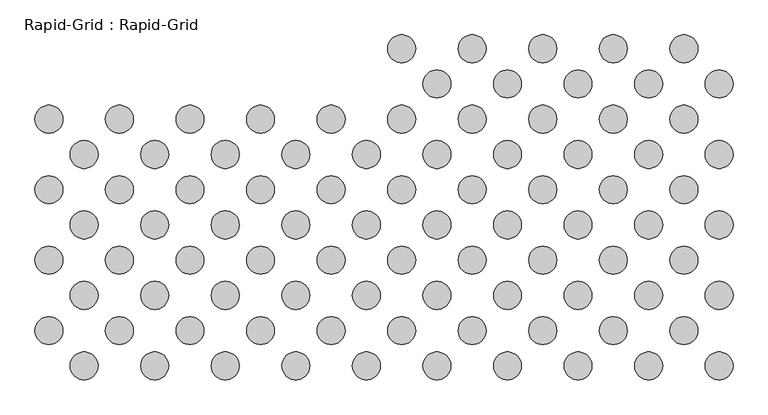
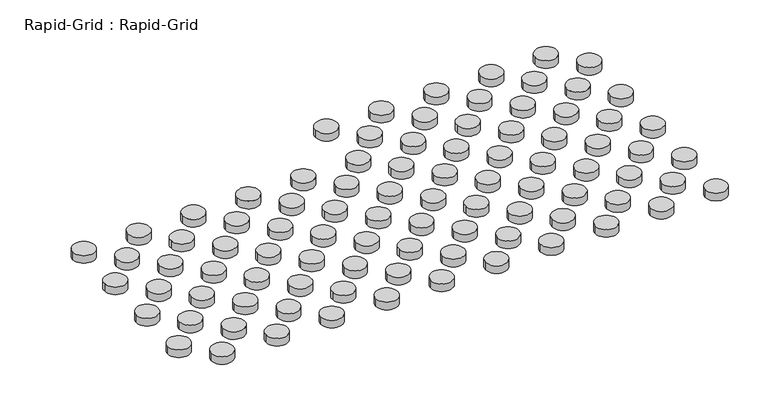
"""IFC4 building model written with IfcOpenShell, lengths in millimetres: proxy geometry, Rapid-Grid : Rapid-Grid."""

from ifc_helpers import new_model, si_unit, point, frame_2d, origin, origin_with_axes, place, context, project, spatial, circle_curve, trimmed, segment, composite_curve, outline, extrude, source, transform, mapped, element, save


def rapid_grid_rapid_grid_6c8458ec(model_context):
    return source(origin(), model_context, "Body", "SweptSolid", [
        extrude(outline(composite_curve([segment(trimmed(circle_curve(frame_2d((1485.9, -2552.7)), 30.1625), [point((1455.7375, -2552.7))], [point((1516.0625, -2552.7))], False, "CARTESIAN"), True, "CONTINUOUS"), segment(trimmed(circle_curve(frame_2d((1485.9, -2552.7)), 30.1625), [point((1516.0625, -2552.7))], [point((1455.7375, -2552.7))], False, "CARTESIAN"), True, "CONTINUOUS")], self_intersect=False)), origin_with_axes(), (0.0, 0.0, 1.0), 22.225),
        extrude(outline(composite_curve([segment(trimmed(circle_curve(frame_2d((1409.7, -2476.5)), 30.1625), [point((1379.5375, -2476.5))], [point((1439.8625, -2476.5))], False, "CARTESIAN"), True, "CONTINUOUS"), segment(trimmed(circle_curve(frame_2d((1409.7, -2476.5)), 30.1625), [point((1439.8625, -2476.5))], [point((1379.5375, -2476.5))], False, "CARTESIAN"), True, "CONTINUOUS")], self_intersect=False)), origin_with_axes(), (0.0, 0.0, 1.0), 22.225),
        extrude(outline(composite_curve([segment(trimmed(circle_curve(frame_2d((1333.5, -2552.7)), 30.1625), [point((1303.3375, -2552.7))], [point((1363.6625, -2552.7))], False, "CARTESIAN"), True, "CONTINUOUS"), segment(trimmed(circle_curve(frame_2d((1333.5, -2552.7)), 30.1625), [point((1363.6625, -2552.7))], [point((1303.3375, -2552.7))], False, "CARTESIAN"), True, "CONTINUOUS")], self_intersect=False)), origin_with_axes(), (0.0, 0.0, 1.0), 22.225),
        extrude(outline(composite_curve([segment(trimmed(circle_curve(frame_2d((1257.3, -2476.5)), 30.1625), [point((1227.1375, -2476.5))], [point((1287.4625, -2476.5))], False, "CARTESIAN"), True, "CONTINUOUS"), segment(trimmed(circle_curve(frame_2d((1257.3, -2476.5)), 30.1625), [point((1287.4625, -2476.5))], [point((1227.1375, -2476.5))], False, "CARTESIAN"), True, "CONTINUOUS")], self_intersect=False)), origin_with_axes(), (0.0, 0.0, 1.0), 22.225),
        extrude(outline(composite_curve([segment(trimmed(circle_curve(frame_2d((1181.1, -2552.7)), 30.1625), [point((1150.9375, -2552.7))], [point((1211.2625, -2552.7))], False, "CARTESIAN"), True, "CONTINUOUS"), segment(trimmed(circle_curve(frame_2d((1181.1, -2552.7)), 30.1625), [point((1211.2625, -2552.7))], [point((1150.9375, -2552.7))], False, "CARTESIAN"), True, "CONTINUOUS")], self_intersect=False)), origin_with_axes(), (0.0, 0.0, 1.0), 22.225),
        extrude(outline(composite_curve([segment(trimmed(circle_curve(frame_2d((1104.9, -2476.5)), 30.1625), [point((1074.7375, -2476.5))], [point((1135.0625, -2476.5))], False, "CARTESIAN"), True, "CONTINUOUS"), segment(trimmed(circle_curve(frame_2d((1104.9, -2476.5)), 30.1625), [point((1135.0625, -2476.5))], [point((1074.7375, -2476.5))], False, "CARTESIAN"), True, "CONTINUOUS")], self_intersect=False)), origin_with_axes(), (0.0, 0.0, 1.0), 22.225),
        extrude(outline(composite_curve([segment(trimmed(circle_curve(frame_2d((1028.7, -2552.7)), 30.1625), [point((998.5375, -2552.7))], [point((1058.8625, -2552.7))], False, "CARTESIAN"), True, "CONTINUOUS"), segment(trimmed(circle_curve(frame_2d((1028.7, -2552.7)), 30.1625), [point((1058.8625, -2552.7))], [point((998.5375, -2552.7))], False, "CARTESIAN"), True, "CONTINUOUS")], self_intersect=False)), origin_with_axes(), (0.0, 0.0, 1.0), 22.225),
        extrude(outline(composite_curve([segment(trimmed(circle_curve(frame_2d((952.5, -2476.5)), 30.1625), [point((922.3375, -2476.5))], [point((982.6625, -2476.5))], False, "CARTESIAN"), True, "CONTINUOUS"), segment(trimmed(circle_curve(frame_2d((952.5, -2476.5)), 30.1625), [point((982.6625, -2476.5))], [point((922.3375, -2476.5))], False, "CARTESIAN"), True, "CONTINUOUS")], self_intersect=False)), origin_with_axes(), (0.0, 0.0, 1.0), 22.225),
        extrude(outline(composite_curve([segment(trimmed(circle_curve(frame_2d((876.3, -2552.7)), 30.1625), [point((846.1375, -2552.7))], [point((906.4625, -2552.7))], False, "CARTESIAN"), True, "CONTINUOUS"), segment(trimmed(circle_curve(frame_2d((876.3, -2552.7)), 30.1625), [point((906.4625, -2552.7))], [point((846.1375, -2552.7))], False, "CARTESIAN"), True, "CONTINUOUS")], self_intersect=False)), origin_with_axes(), (0.0, 0.0, 1.0), 22.225),
        extrude(outline(composite_curve([segment(trimmed(circle_curve(frame_2d((800.1, -2476.5)), 30.1625), [point((769.9375, -2476.5))], [point((830.2625, -2476.5))], False, "CARTESIAN"), True, "CONTINUOUS"), segment(trimmed(circle_curve(frame_2d((800.1, -2476.5)), 30.1625), [point((830.2625, -2476.5))], [point((769.9375, -2476.5))], False, "CARTESIAN"), True, "CONTINUOUS")], self_intersect=False)), origin_with_axes(), (0.0, 0.0, 1.0), 22.225),
        extrude(outline(composite_curve([segment(trimmed(circle_curve(frame_2d((723.9, -2552.7)), 30.1625), [point((693.7375, -2552.7))], [point((754.0625, -2552.7))], False, "CARTESIAN"), True, "CONTINUOUS"), segment(trimmed(circle_curve(frame_2d((723.9, -2552.7)), 30.1625), [point((754.0625, -2552.7))], [point((693.7375, -2552.7))], False, "CARTESIAN"), True, "CONTINUOUS")], self_intersect=False)), origin_with_axes(), (0.0, 0.0, 1.0), 22.225),
        extrude(outline(composite_curve([segment(trimmed(circle_curve(frame_2d((647.7, -2476.5)), 30.1625), [point((617.5375, -2476.5))], [point((677.8625, -2476.5))], False, "CARTESIAN"), True, "CONTINUOUS"), segment(trimmed(circle_curve(frame_2d((647.7, -2476.5)), 30.1625), [point((677.8625, -2476.5))], [point((617.5375, -2476.5))], False, "CARTESIAN"), True, "CONTINUOUS")], self_intersect=False)), origin_with_axes(), (0.0, 0.0, 1.0), 22.225),
        extrude(outline(composite_curve([segment(trimmed(circle_curve(frame_2d((571.5, -2552.7)), 30.1625), [point((541.3375, -2552.7))], [point((601.6625, -2552.7))], False, "CARTESIAN"), True, "CONTINUOUS"), segment(trimmed(circle_curve(frame_2d((571.5, -2552.7)), 30.1625), [point((601.6625, -2552.7))], [point((541.3375, -2552.7))], False, "CARTESIAN"), True, "CONTINUOUS")], self_intersect=False)), origin_with_axes(), (0.0, 0.0, 1.0), 22.225),
        extrude(outline(composite_curve([segment(trimmed(circle_curve(frame_2d((495.3, -2476.5)), 30.1625), [point((465.1375, -2476.5))], [point((525.4625, -2476.5))], False, "CARTESIAN"), True, "CONTINUOUS"), segment(trimmed(circle_curve(frame_2d((495.3, -2476.5)), 30.1625), [point((525.4625, -2476.5))], [point((465.1375, -2476.5))], False, "CARTESIAN"), True, "CONTINUOUS")], self_intersect=False)), origin_with_axes(), (0.0, 0.0, 1.0), 22.225),
        extrude(outline(composite_curve([segment(trimmed(circle_curve(frame_2d((419.1, -2552.7)), 30.1625), [point((388.9375, -2552.7))], [point((449.2625, -2552.7))], False, "CARTESIAN"), True, "CONTINUOUS"), segment(trimmed(circle_curve(frame_2d((419.1, -2552.7)), 30.1625), [point((449.2625, -2552.7))], [point((388.9375, -2552.7))], False, "CARTESIAN"), True, "CONTINUOUS")], self_intersect=False)), origin_with_axes(), (0.0, 0.0, 1.0), 22.225),
        extrude(outline(composite_curve([segment(trimmed(circle_curve(frame_2d((342.9, -2476.5)), 30.1625), [point((312.7375, -2476.5))], [point((373.0625, -2476.5))], False, "CARTESIAN"), True, "CONTINUOUS"), segment(trimmed(circle_curve(frame_2d((342.9, -2476.5)), 30.1625), [point((373.0625, -2476.5))], [point((312.7375, -2476.5))], False, "CARTESIAN"), True, "CONTINUOUS")], self_intersect=False)), origin_with_axes(), (0.0, 0.0, 1.0), 22.225),
        extrude(outline(composite_curve([segment(trimmed(circle_curve(frame_2d((266.7, -2552.7)), 30.1625), [point((236.5375, -2552.7))], [point((296.8625, -2552.7))], False, "CARTESIAN"), True, "CONTINUOUS"), segment(trimmed(circle_curve(frame_2d((266.7, -2552.7)), 30.1625), [point((296.8625, -2552.7))], [point((236.5375, -2552.7))], False, "CARTESIAN"), True, "CONTINUOUS")], self_intersect=False)), origin_with_axes(), (0.0, 0.0, 1.0), 22.225),
        extrude(outline(composite_curve([segment(trimmed(circle_curve(frame_2d((190.5, -2476.5)), 30.1625), [point((160.3375, -2476.5))], [point((220.6625, -2476.5))], False, "CARTESIAN"), True, "CONTINUOUS"), segment(trimmed(circle_curve(frame_2d((190.5, -2476.5)), 30.1625), [point((220.6625, -2476.5))], [point((160.3375, -2476.5))], False, "CARTESIAN"), True, "CONTINUOUS")], self_intersect=False)), origin_with_axes(), (0.0, 0.0, 1.0), 22.225),
        extrude(outline(composite_curve([segment(trimmed(circle_curve(frame_2d((114.3, -2552.7)), 30.1625), [point((84.1375, -2552.7))], [point((144.4625, -2552.7))], False, "CARTESIAN"), True, "CONTINUOUS"), segment(trimmed(circle_curve(frame_2d((114.3, -2552.7)), 30.1625), [point((144.4625, -2552.7))], [point((84.1375, -2552.7))], False, "CARTESIAN"), True, "CONTINUOUS")], self_intersect=False)), origin_with_axes(), (0.0, 0.0, 1.0), 22.225),
        extrude(outline(composite_curve([segment(trimmed(circle_curve(frame_2d((38.1, -2476.5)), 30.1625), [point((7.9375, -2476.5))], [point((68.2625, -2476.5))], False, "CARTESIAN"), True, "CONTINUOUS"), segment(trimmed(circle_curve(frame_2d((38.1, -2476.5)), 30.1625), [point((68.2625, -2476.5))], [point((7.9375, -2476.5))], False, "CARTESIAN"), True, "CONTINUOUS")], self_intersect=False)), origin_with_axes(), (0.0, 0.0, 1.0), 22.225),
        extrude(outline(composite_curve([segment(trimmed(circle_curve(frame_2d((1485.9, -2400.3)), 30.1625), [point((1455.7375, -2400.3))], [point((1516.0625, -2400.3))], False, "CARTESIAN"), True, "CONTINUOUS"), segment(trimmed(circle_curve(frame_2d((1485.9, -2400.3)), 30.1625), [point((1516.0625, -2400.3))], [point((1455.7375, -2400.3))], False, "CARTESIAN"), True, "CONTINUOUS")], self_intersect=False)), origin_with_axes(), (0.0, 0.0, 1.0), 22.225),
        extrude(outline(composite_curve([segment(trimmed(circle_curve(frame_2d((1409.7, -2324.1)), 30.1625), [point((1379.5375, -2324.1))], [point((1439.8625, -2324.1))], False, "CARTESIAN"), True, "CONTINUOUS"), segment(trimmed(circle_curve(frame_2d((1409.7, -2324.1)), 30.1625), [point((1439.8625, -2324.1))], [point((1379.5375, -2324.1))], False, "CARTESIAN"), True, "CONTINUOUS")], self_intersect=False)), origin_with_axes(), (0.0, 0.0, 1.0), 22.225),
        extrude(outline(composite_curve([segment(trimmed(circle_curve(frame_2d((1333.5, -2400.3)), 30.1625), [point((1303.3375, -2400.3))], [point((1363.6625, -2400.3))], False, "CARTESIAN"), True, "CONTINUOUS"), segment(trimmed(circle_curve(frame_2d((1333.5, -2400.3)), 30.1625), [point((1363.6625, -2400.3))], [point((1303.3375, -2400.3))], False, "CARTESIAN"), True, "CONTINUOUS")], self_intersect=False)), origin_with_axes(), (0.0, 0.0, 1.0), 22.225),
        extrude(outline(composite_curve([segment(trimmed(circle_curve(frame_2d((1257.3, -2324.1)), 30.1625), [point((1227.1375, -2324.1))], [point((1287.4625, -2324.1))], False, "CARTESIAN"), True, "CONTINUOUS"), segment(trimmed(circle_curve(frame_2d((1257.3, -2324.1)), 30.1625), [point((1287.4625, -2324.1))], [point((1227.1375, -2324.1))], False, "CARTESIAN"), True, "CONTINUOUS")], self_intersect=False)), origin_with_axes(), (0.0, 0.0, 1.0), 22.225),
        extrude(outline(composite_curve([segment(trimmed(circle_curve(frame_2d((1181.1, -2400.3)), 30.1625), [point((1150.9375, -2400.3))], [point((1211.2625, -2400.3))], False, "CARTESIAN"), True, "CONTINUOUS"), segment(trimmed(circle_curve(frame_2d((1181.1, -2400.3)), 30.1625), [point((1211.2625, -2400.3))], [point((1150.9375, -2400.3))], False, "CARTESIAN"), True, "CONTINUOUS")], self_intersect=False)), origin_with_axes(), (0.0, 0.0, 1.0), 22.225),
        extrude(outline(composite_curve([segment(trimmed(circle_curve(frame_2d((1104.9, -2324.1)), 30.1625), [point((1074.7375, -2324.1))], [point((1135.0625, -2324.1))], False, "CARTESIAN"), True, "CONTINUOUS"), segment(trimmed(circle_curve(frame_2d((1104.9, -2324.1)), 30.1625), [point((1135.0625, -2324.1))], [point((1074.7375, -2324.1))], False, "CARTESIAN"), True, "CONTINUOUS")], self_intersect=False)), origin_with_axes(), (0.0, 0.0, 1.0), 22.225),
        extrude(outline(composite_curve([segment(trimmed(circle_curve(frame_2d((1028.7, -2400.3)), 30.1625), [point((998.5375, -2400.3))], [point((1058.8625, -2400.3))], False, "CARTESIAN"), True, "CONTINUOUS"), segment(trimmed(circle_curve(frame_2d((1028.7, -2400.3)), 30.1625), [point((1058.8625, -2400.3))], [point((998.5375, -2400.3))], False, "CARTESIAN"), True, "CONTINUOUS")], self_intersect=False)), origin_with_axes(), (0.0, 0.0, 1.0), 22.225),
        extrude(outline(composite_curve([segment(trimmed(circle_curve(frame_2d((952.5, -2324.1)), 30.1625), [point((922.3375, -2324.1))], [point((982.6625, -2324.1))], False, "CARTESIAN"), True, "CONTINUOUS"), segment(trimmed(circle_curve(frame_2d((952.5, -2324.1)), 30.1625), [point((982.6625, -2324.1))], [point((922.3375, -2324.1))], False, "CARTESIAN"), True, "CONTINUOUS")], self_intersect=False)), origin_with_axes(), (0.0, 0.0, 1.0), 22.225),
        extrude(outline(composite_curve([segment(trimmed(circle_curve(frame_2d((876.3, -2400.3)), 30.1625), [point((846.1375, -2400.3))], [point((906.4625, -2400.3))], False, "CARTESIAN"), True, "CONTINUOUS"), segment(trimmed(circle_curve(frame_2d((876.3, -2400.3)), 30.1625), [point((906.4625, -2400.3))], [point((846.1375, -2400.3))], False, "CARTESIAN"), True, "CONTINUOUS")], self_intersect=False)), origin_with_axes(), (0.0, 0.0, 1.0), 22.225),
        extrude(outline(composite_curve([segment(trimmed(circle_curve(frame_2d((800.1, -2324.1)), 30.1625), [point((769.9375, -2324.1))], [point((830.2625, -2324.1))], False, "CARTESIAN"), True, "CONTINUOUS"), segment(trimmed(circle_curve(frame_2d((800.1, -2324.1)), 30.1625), [point((830.2625, -2324.1))], [point((769.9375, -2324.1))], False, "CARTESIAN"), True, "CONTINUOUS")], self_intersect=False)), origin_with_axes(), (0.0, 0.0, 1.0), 22.225),
        extrude(outline(composite_curve([segment(trimmed(circle_curve(frame_2d((723.9, -2400.3)), 30.1625), [point((693.7375, -2400.3))], [point((754.0625, -2400.3))], False, "CARTESIAN"), True, "CONTINUOUS"), segment(trimmed(circle_curve(frame_2d((723.9, -2400.3)), 30.1625), [point((754.0625, -2400.3))], [point((693.7375, -2400.3))], False, "CARTESIAN"), True, "CONTINUOUS")], self_intersect=False)), origin_with_axes(), (0.0, 0.0, 1.0), 22.225),
        extrude(outline(composite_curve([segment(trimmed(circle_curve(frame_2d((647.7, -2324.1)), 30.1625), [point((617.5375, -2324.1))], [point((677.8625, -2324.1))], False, "CARTESIAN"), True, "CONTINUOUS"), segment(trimmed(circle_curve(frame_2d((647.7, -2324.1)), 30.1625), [point((677.8625, -2324.1))], [point((617.5375, -2324.1))], False, "CARTESIAN"), True, "CONTINUOUS")], self_intersect=False)), origin_with_axes(), (0.0, 0.0, 1.0), 22.225),
        extrude(outline(composite_curve([segment(trimmed(circle_curve(frame_2d((571.5, -2400.3)), 30.1625), [point((541.3375, -2400.3))], [point((601.6625, -2400.3))], False, "CARTESIAN"), True, "CONTINUOUS"), segment(trimmed(circle_curve(frame_2d((571.5, -2400.3)), 30.1625), [point((601.6625, -2400.3))], [point((541.3375, -2400.3))], False, "CARTESIAN"), True, "CONTINUOUS")], self_intersect=False)), origin_with_axes(), (0.0, 0.0, 1.0), 22.225),
        extrude(outline(composite_curve([segment(trimmed(circle_curve(frame_2d((495.3, -2324.1)), 30.1625), [point((465.1375, -2324.1))], [point((525.4625, -2324.1))], False, "CARTESIAN"), True, "CONTINUOUS"), segment(trimmed(circle_curve(frame_2d((495.3, -2324.1)), 30.1625), [point((525.4625, -2324.1))], [point((465.1375, -2324.1))], False, "CARTESIAN"), True, "CONTINUOUS")], self_intersect=False)), origin_with_axes(), (0.0, 0.0, 1.0), 22.225),
        extrude(outline(composite_curve([segment(trimmed(circle_curve(frame_2d((419.1, -2400.3)), 30.1625), [point((388.9375, -2400.3))], [point((449.2625, -2400.3))], False, "CARTESIAN"), True, "CONTINUOUS"), segment(trimmed(circle_curve(frame_2d((419.1, -2400.3)), 30.1625), [point((449.2625, -2400.3))], [point((388.9375, -2400.3))], False, "CARTESIAN"), True, "CONTINUOUS")], self_intersect=False)), origin_with_axes(), (0.0, 0.0, 1.0), 22.225),
        extrude(outline(composite_curve([segment(trimmed(circle_curve(frame_2d((342.9, -2324.1)), 30.1625), [point((312.7375, -2324.1))], [point((373.0625, -2324.1))], False, "CARTESIAN"), True, "CONTINUOUS"), segment(trimmed(circle_curve(frame_2d((342.9, -2324.1)), 30.1625), [point((373.0625, -2324.1))], [point((312.7375, -2324.1))], False, "CARTESIAN"), True, "CONTINUOUS")], self_intersect=False)), origin_with_axes(), (0.0, 0.0, 1.0), 22.225),
        extrude(outline(composite_curve([segment(trimmed(circle_curve(frame_2d((266.7, -2400.3)), 30.1625), [point((236.5375, -2400.3))], [point((296.8625, -2400.3))], False, "CARTESIAN"), True, "CONTINUOUS"), segment(trimmed(circle_curve(frame_2d((266.7, -2400.3)), 30.1625), [point((296.8625, -2400.3))], [point((236.5375, -2400.3))], False, "CARTESIAN"), True, "CONTINUOUS")], self_intersect=False)), origin_with_axes(), (0.0, 0.0, 1.0), 22.225),
        extrude(outline(composite_curve([segment(trimmed(circle_curve(frame_2d((190.5, -2324.1)), 30.1625), [point((160.3375, -2324.1))], [point((220.6625, -2324.1))], False, "CARTESIAN"), True, "CONTINUOUS"), segment(trimmed(circle_curve(frame_2d((190.5, -2324.1)), 30.1625), [point((220.6625, -2324.1))], [point((160.3375, -2324.1))], False, "CARTESIAN"), True, "CONTINUOUS")], self_intersect=False)), origin_with_axes(), (0.0, 0.0, 1.0), 22.225),
        extrude(outline(composite_curve([segment(trimmed(circle_curve(frame_2d((114.3, -2400.3)), 30.1625), [point((84.1375, -2400.3))], [point((144.4625, -2400.3))], False, "CARTESIAN"), True, "CONTINUOUS"), segment(trimmed(circle_curve(frame_2d((114.3, -2400.3)), 30.1625), [point((144.4625, -2400.3))], [point((84.1375, -2400.3))], False, "CARTESIAN"), True, "CONTINUOUS")], self_intersect=False)), origin_with_axes(), (0.0, 0.0, 1.0), 22.225),
        extrude(outline(composite_curve([segment(trimmed(circle_curve(frame_2d((38.1, -2324.1)), 30.1625), [point((7.9375, -2324.1))], [point((68.2625, -2324.1))], False, "CARTESIAN"), True, "CONTINUOUS"), segment(trimmed(circle_curve(frame_2d((38.1, -2324.1)), 30.1625), [point((68.2625, -2324.1))], [point((7.9375, -2324.1))], False, "CARTESIAN"), True, "CONTINUOUS")], self_intersect=False)), origin_with_axes(), (0.0, 0.0, 1.0), 22.225),
        extrude(outline(composite_curve([segment(trimmed(circle_curve(frame_2d((1485.9, -2247.9)), 30.1625), [point((1455.7375, -2247.9))], [point((1516.0625, -2247.9))], False, "CARTESIAN"), True, "CONTINUOUS"), segment(trimmed(circle_curve(frame_2d((1485.9, -2247.9)), 30.1625), [point((1516.0625, -2247.9))], [point((1455.7375, -2247.9))], False, "CARTESIAN"), True, "CONTINUOUS")], self_intersect=False)), origin_with_axes(), (0.0, 0.0, 1.0), 22.225),
        extrude(outline(composite_curve([segment(trimmed(circle_curve(frame_2d((1409.7, -2171.7)), 30.1625), [point((1379.5375, -2171.7))], [point((1439.8625, -2171.7))], False, "CARTESIAN"), True, "CONTINUOUS"), segment(trimmed(circle_curve(frame_2d((1409.7, -2171.7)), 30.1625), [point((1439.8625, -2171.7))], [point((1379.5375, -2171.7))], False, "CARTESIAN"), True, "CONTINUOUS")], self_intersect=False)), origin_with_axes(), (0.0, 0.0, 1.0), 22.225),
        extrude(outline(composite_curve([segment(trimmed(circle_curve(frame_2d((1333.5, -2247.9)), 30.1625), [point((1303.3375, -2247.9))], [point((1363.6625, -2247.9))], False, "CARTESIAN"), True, "CONTINUOUS"), segment(trimmed(circle_curve(frame_2d((1333.5, -2247.9)), 30.1625), [point((1363.6625, -2247.9))], [point((1303.3375, -2247.9))], False, "CARTESIAN"), True, "CONTINUOUS")], self_intersect=False)), origin_with_axes(), (0.0, 0.0, 1.0), 22.225),
        extrude(outline(composite_curve([segment(trimmed(circle_curve(frame_2d((1257.3, -2171.7)), 30.1625), [point((1227.1375, -2171.7))], [point((1287.4625, -2171.7))], False, "CARTESIAN"), True, "CONTINUOUS"), segment(trimmed(circle_curve(frame_2d((1257.3, -2171.7)), 30.1625), [point((1287.4625, -2171.7))], [point((1227.1375, -2171.7))], False, "CARTESIAN"), True, "CONTINUOUS")], self_intersect=False)), origin_with_axes(), (0.0, 0.0, 1.0), 22.225),
        extrude(outline(composite_curve([segment(trimmed(circle_curve(frame_2d((1181.1, -2247.9)), 30.1625), [point((1150.9375, -2247.9))], [point((1211.2625, -2247.9))], False, "CARTESIAN"), True, "CONTINUOUS"), segment(trimmed(circle_curve(frame_2d((1181.1, -2247.9)), 30.1625), [point((1211.2625, -2247.9))], [point((1150.9375, -2247.9))], False, "CARTESIAN"), True, "CONTINUOUS")], self_intersect=False)), origin_with_axes(), (0.0, 0.0, 1.0), 22.225),
        extrude(outline(composite_curve([segment(trimmed(circle_curve(frame_2d((1104.9, -2171.7)), 30.1625), [point((1074.7375, -2171.7))], [point((1135.0625, -2171.7))], False, "CARTESIAN"), True, "CONTINUOUS"), segment(trimmed(circle_curve(frame_2d((1104.9, -2171.7)), 30.1625), [point((1135.0625, -2171.7))], [point((1074.7375, -2171.7))], False, "CARTESIAN"), True, "CONTINUOUS")], self_intersect=False)), origin_with_axes(), (0.0, 0.0, 1.0), 22.225),
        extrude(outline(composite_curve([segment(trimmed(circle_curve(frame_2d((1028.7, -2247.9)), 30.1625), [point((998.5375, -2247.9))], [point((1058.8625, -2247.9))], False, "CARTESIAN"), True, "CONTINUOUS"), segment(trimmed(circle_curve(frame_2d((1028.7, -2247.9)), 30.1625), [point((1058.8625, -2247.9))], [point((998.5375, -2247.9))], False, "CARTESIAN"), True, "CONTINUOUS")], self_intersect=False)), origin_with_axes(), (0.0, 0.0, 1.0), 22.225),
        extrude(outline(composite_curve([segment(trimmed(circle_curve(frame_2d((952.5, -2171.7)), 30.1625), [point((922.3375, -2171.7))], [point((982.6625, -2171.7))], False, "CARTESIAN"), True, "CONTINUOUS"), segment(trimmed(circle_curve(frame_2d((952.5, -2171.7)), 30.1625), [point((982.6625, -2171.7))], [point((922.3375, -2171.7))], False, "CARTESIAN"), True, "CONTINUOUS")], self_intersect=False)), origin_with_axes(), (0.0, 0.0, 1.0), 22.225),
        extrude(outline(composite_curve([segment(trimmed(circle_curve(frame_2d((876.3, -2247.9)), 30.1625), [point((846.1375, -2247.9))], [point((906.4625, -2247.9))], False, "CARTESIAN"), True, "CONTINUOUS"), segment(trimmed(circle_curve(frame_2d((876.3, -2247.9)), 30.1625), [point((906.4625, -2247.9))], [point((846.1375, -2247.9))], False, "CARTESIAN"), True, "CONTINUOUS")], self_intersect=False)), origin_with_axes(), (0.0, 0.0, 1.0), 22.225),
        extrude(outline(composite_curve([segment(trimmed(circle_curve(frame_2d((800.1, -2171.7)), 30.1625), [point((769.9375, -2171.7))], [point((830.2625, -2171.7))], False, "CARTESIAN"), True, "CONTINUOUS"), segment(trimmed(circle_curve(frame_2d((800.1, -2171.7)), 30.1625), [point((830.2625, -2171.7))], [point((769.9375, -2171.7))], False, "CARTESIAN"), True, "CONTINUOUS")], self_intersect=False)), origin_with_axes(), (0.0, 0.0, 1.0), 22.225),
        extrude(outline(composite_curve([segment(trimmed(circle_curve(frame_2d((723.9, -2247.9)), 30.1625), [point((693.7375, -2247.9))], [point((754.0625, -2247.9))], False, "CARTESIAN"), True, "CONTINUOUS"), segment(trimmed(circle_curve(frame_2d((723.9, -2247.9)), 30.1625), [point((754.0625, -2247.9))], [point((693.7375, -2247.9))], False, "CARTESIAN"), True, "CONTINUOUS")], self_intersect=False)), origin_with_axes(), (0.0, 0.0, 1.0), 22.225),
        extrude(outline(composite_curve([segment(trimmed(circle_curve(frame_2d((647.7, -2171.7)), 30.1625), [point((617.5375, -2171.7))], [point((677.8625, -2171.7))], False, "CARTESIAN"), True, "CONTINUOUS"), segment(trimmed(circle_curve(frame_2d((647.7, -2171.7)), 30.1625), [point((677.8625, -2171.7))], [point((617.5375, -2171.7))], False, "CARTESIAN"), True, "CONTINUOUS")], self_intersect=False)), origin_with_axes(), (0.0, 0.0, 1.0), 22.225),
        extrude(outline(composite_curve([segment(trimmed(circle_curve(frame_2d((571.5, -2247.9)), 30.1625), [point((541.3375, -2247.9))], [point((601.6625, -2247.9))], False, "CARTESIAN"), True, "CONTINUOUS"), segment(trimmed(circle_curve(frame_2d((571.5, -2247.9)), 30.1625), [point((601.6625, -2247.9))], [point((541.3375, -2247.9))], False, "CARTESIAN"), True, "CONTINUOUS")], self_intersect=False)), origin_with_axes(), (0.0, 0.0, 1.0), 22.225),
        extrude(outline(composite_curve([segment(trimmed(circle_curve(frame_2d((495.3, -2171.7)), 30.1625), [point((465.1375, -2171.7))], [point((525.4625, -2171.7))], False, "CARTESIAN"), True, "CONTINUOUS"), segment(trimmed(circle_curve(frame_2d((495.3, -2171.7)), 30.1625), [point((525.4625, -2171.7))], [point((465.1375, -2171.7))], False, "CARTESIAN"), True, "CONTINUOUS")], self_intersect=False)), origin_with_axes(), (0.0, 0.0, 1.0), 22.225),
        extrude(outline(composite_curve([segment(trimmed(circle_curve(frame_2d((419.1, -2247.9)), 30.1625), [point((388.9375, -2247.9))], [point((449.2625, -2247.9))], False, "CARTESIAN"), True, "CONTINUOUS"), segment(trimmed(circle_curve(frame_2d((419.1, -2247.9)), 30.1625), [point((449.2625, -2247.9))], [point((388.9375, -2247.9))], False, "CARTESIAN"), True, "CONTINUOUS")], self_intersect=False)), origin_with_axes(), (0.0, 0.0, 1.0), 22.225),
        extrude(outline(composite_curve([segment(trimmed(circle_curve(frame_2d((342.9, -2171.7)), 30.1625), [point((312.7375, -2171.7))], [point((373.0625, -2171.7))], False, "CARTESIAN"), True, "CONTINUOUS"), segment(trimmed(circle_curve(frame_2d((342.9, -2171.7)), 30.1625), [point((373.0625, -2171.7))], [point((312.7375, -2171.7))], False, "CARTESIAN"), True, "CONTINUOUS")], self_intersect=False)), origin_with_axes(), (0.0, 0.0, 1.0), 22.225),
        extrude(outline(composite_curve([segment(trimmed(circle_curve(frame_2d((266.7, -2247.9)), 30.1625), [point((236.5375, -2247.9))], [point((296.8625, -2247.9))], False, "CARTESIAN"), True, "CONTINUOUS"), segment(trimmed(circle_curve(frame_2d((266.7, -2247.9)), 30.1625), [point((296.8625, -2247.9))], [point((236.5375, -2247.9))], False, "CARTESIAN"), True, "CONTINUOUS")], self_intersect=False)), origin_with_axes(), (0.0, 0.0, 1.0), 22.225),
        extrude(outline(composite_curve([segment(trimmed(circle_curve(frame_2d((190.5, -2171.7)), 30.1625), [point((160.3375, -2171.7))], [point((220.6625, -2171.7))], False, "CARTESIAN"), True, "CONTINUOUS"), segment(trimmed(circle_curve(frame_2d((190.5, -2171.7)), 30.1625), [point((220.6625, -2171.7))], [point((160.3375, -2171.7))], False, "CARTESIAN"), True, "CONTINUOUS")], self_intersect=False)), origin_with_axes(), (0.0, 0.0, 1.0), 22.225),
        extrude(outline(composite_curve([segment(trimmed(circle_curve(frame_2d((114.3, -2247.9)), 30.1625), [point((84.1375, -2247.9))], [point((144.4625, -2247.9))], False, "CARTESIAN"), True, "CONTINUOUS"), segment(trimmed(circle_curve(frame_2d((114.3, -2247.9)), 30.1625), [point((144.4625, -2247.9))], [point((84.1375, -2247.9))], False, "CARTESIAN"), True, "CONTINUOUS")], self_intersect=False)), origin_with_axes(), (0.0, 0.0, 1.0), 22.225),
        extrude(outline(composite_curve([segment(trimmed(circle_curve(frame_2d((38.1, -2171.7)), 30.1625), [point((7.9375, -2171.7))], [point((68.2625, -2171.7))], False, "CARTESIAN"), True, "CONTINUOUS"), segment(trimmed(circle_curve(frame_2d((38.1, -2171.7)), 30.1625), [point((68.2625, -2171.7))], [point((7.9375, -2171.7))], False, "CARTESIAN"), True, "CONTINUOUS")], self_intersect=False)), origin_with_axes(), (0.0, 0.0, 1.0), 22.225),
        extrude(outline(composite_curve([segment(trimmed(circle_curve(frame_2d((1485.9, -2095.5)), 30.1625), [point((1455.7375, -2095.5))], [point((1516.0625, -2095.5))], False, "CARTESIAN"), True, "CONTINUOUS"), segment(trimmed(circle_curve(frame_2d((1485.9, -2095.5)), 30.1625), [point((1516.0625, -2095.5))], [point((1455.7375, -2095.5))], False, "CARTESIAN"), True, "CONTINUOUS")], self_intersect=False)), origin_with_axes(), (0.0, 0.0, 1.0), 22.225),
        extrude(outline(composite_curve([segment(trimmed(circle_curve(frame_2d((1409.7, -2019.3)), 30.1625), [point((1379.5375, -2019.3))], [point((1439.8625, -2019.3))], False, "CARTESIAN"), True, "CONTINUOUS"), segment(trimmed(circle_curve(frame_2d((1409.7, -2019.3)), 30.1625), [point((1439.8625, -2019.3))], [point((1379.5375, -2019.3))], False, "CARTESIAN"), True, "CONTINUOUS")], self_intersect=False)), origin_with_axes(), (0.0, 0.0, 1.0), 22.225),
        extrude(outline(composite_curve([segment(trimmed(circle_curve(frame_2d((1333.5, -2095.5)), 30.1625), [point((1303.3375, -2095.5))], [point((1363.6625, -2095.5))], False, "CARTESIAN"), True, "CONTINUOUS"), segment(trimmed(circle_curve(frame_2d((1333.5, -2095.5)), 30.1625), [point((1363.6625, -2095.5))], [point((1303.3375, -2095.5))], False, "CARTESIAN"), True, "CONTINUOUS")], self_intersect=False)), origin_with_axes(), (0.0, 0.0, 1.0), 22.225),
        extrude(outline(composite_curve([segment(trimmed(circle_curve(frame_2d((1257.3, -2019.3)), 30.1625), [point((1227.1375, -2019.3))], [point((1287.4625, -2019.3))], False, "CARTESIAN"), True, "CONTINUOUS"), segment(trimmed(circle_curve(frame_2d((1257.3, -2019.3)), 30.1625), [point((1287.4625, -2019.3))], [point((1227.1375, -2019.3))], False, "CARTESIAN"), True, "CONTINUOUS")], self_intersect=False)), origin_with_axes(), (0.0, 0.0, 1.0), 22.225),
        extrude(outline(composite_curve([segment(trimmed(circle_curve(frame_2d((1181.1, -2095.5)), 30.1625), [point((1150.9375, -2095.5))], [point((1211.2625, -2095.5))], False, "CARTESIAN"), True, "CONTINUOUS"), segment(trimmed(circle_curve(frame_2d((1181.1, -2095.5)), 30.1625), [point((1211.2625, -2095.5))], [point((1150.9375, -2095.5))], False, "CARTESIAN"), True, "CONTINUOUS")], self_intersect=False)), origin_with_axes(), (0.0, 0.0, 1.0), 22.225),
        extrude(outline(composite_curve([segment(trimmed(circle_curve(frame_2d((1104.9, -2019.3)), 30.1625), [point((1074.7375, -2019.3))], [point((1135.0625, -2019.3))], False, "CARTESIAN"), True, "CONTINUOUS"), segment(trimmed(circle_curve(frame_2d((1104.9, -2019.3)), 30.1625), [point((1135.0625, -2019.3))], [point((1074.7375, -2019.3))], False, "CARTESIAN"), True, "CONTINUOUS")], self_intersect=False)), origin_with_axes(), (0.0, 0.0, 1.0), 22.225),
        extrude(outline(composite_curve([segment(trimmed(circle_curve(frame_2d((1028.7, -2095.5)), 30.1625), [point((998.5375, -2095.5))], [point((1058.8625, -2095.5))], False, "CARTESIAN"), True, "CONTINUOUS"), segment(trimmed(circle_curve(frame_2d((1028.7, -2095.5)), 30.1625), [point((1058.8625, -2095.5))], [point((998.5375, -2095.5))], False, "CARTESIAN"), True, "CONTINUOUS")], self_intersect=False)), origin_with_axes(), (0.0, 0.0, 1.0), 22.225),
        extrude(outline(composite_curve([segment(trimmed(circle_curve(frame_2d((952.5, -2019.3)), 30.1625), [point((922.3375, -2019.3))], [point((982.6625, -2019.3))], False, "CARTESIAN"), True, "CONTINUOUS"), segment(trimmed(circle_curve(frame_2d((952.5, -2019.3)), 30.1625), [point((982.6625, -2019.3))], [point((922.3375, -2019.3))], False, "CARTESIAN"), True, "CONTINUOUS")], self_intersect=False)), origin_with_axes(), (0.0, 0.0, 1.0), 22.225),
        extrude(outline(composite_curve([segment(trimmed(circle_curve(frame_2d((876.3, -2095.5)), 30.1625), [point((846.1375, -2095.5))], [point((906.4625, -2095.5))], False, "CARTESIAN"), True, "CONTINUOUS"), segment(trimmed(circle_curve(frame_2d((876.3, -2095.5)), 30.1625), [point((906.4625, -2095.5))], [point((846.1375, -2095.5))], False, "CARTESIAN"), True, "CONTINUOUS")], self_intersect=False)), origin_with_axes(), (0.0, 0.0, 1.0), 22.225),
        extrude(outline(composite_curve([segment(trimmed(circle_curve(frame_2d((800.1, -2019.3)), 30.1625), [point((769.9375, -2019.3))], [point((830.2625, -2019.3))], False, "CARTESIAN"), True, "CONTINUOUS"), segment(trimmed(circle_curve(frame_2d((800.1, -2019.3)), 30.1625), [point((830.2625, -2019.3))], [point((769.9375, -2019.3))], False, "CARTESIAN"), True, "CONTINUOUS")], self_intersect=False)), origin_with_axes(), (0.0, 0.0, 1.0), 22.225),
        extrude(outline(composite_curve([segment(trimmed(circle_curve(frame_2d((723.9, -2095.5)), 30.1625), [point((693.7375, -2095.5))], [point((754.0625, -2095.5))], False, "CARTESIAN"), True, "CONTINUOUS"), segment(trimmed(circle_curve(frame_2d((723.9, -2095.5)), 30.1625), [point((754.0625, -2095.5))], [point((693.7375, -2095.5))], False, "CARTESIAN"), True, "CONTINUOUS")], self_intersect=False)), origin_with_axes(), (0.0, 0.0, 1.0), 22.225),
        extrude(outline(composite_curve([segment(trimmed(circle_curve(frame_2d((647.7, -2019.3)), 30.1625), [point((617.5375, -2019.3))], [point((677.8625, -2019.3))], False, "CARTESIAN"), True, "CONTINUOUS"), segment(trimmed(circle_curve(frame_2d((647.7, -2019.3)), 30.1625), [point((677.8625, -2019.3))], [point((617.5375, -2019.3))], False, "CARTESIAN"), True, "CONTINUOUS")], self_intersect=False)), origin_with_axes(), (0.0, 0.0, 1.0), 22.225),
        extrude(outline(composite_curve([segment(trimmed(circle_curve(frame_2d((571.5, -2095.5)), 30.1625), [point((541.3375, -2095.5))], [point((601.6625, -2095.5))], False, "CARTESIAN"), True, "CONTINUOUS"), segment(trimmed(circle_curve(frame_2d((571.5, -2095.5)), 30.1625), [point((601.6625, -2095.5))], [point((541.3375, -2095.5))], False, "CARTESIAN"), True, "CONTINUOUS")], self_intersect=False)), origin_with_axes(), (0.0, 0.0, 1.0), 22.225),
        extrude(outline(composite_curve([segment(trimmed(circle_curve(frame_2d((495.3, -2019.3)), 30.1625), [point((465.1375, -2019.3))], [point((525.4625, -2019.3))], False, "CARTESIAN"), True, "CONTINUOUS"), segment(trimmed(circle_curve(frame_2d((495.3, -2019.3)), 30.1625), [point((525.4625, -2019.3))], [point((465.1375, -2019.3))], False, "CARTESIAN"), True, "CONTINUOUS")], self_intersect=False)), origin_with_axes(), (0.0, 0.0, 1.0), 22.225),
        extrude(outline(composite_curve([segment(trimmed(circle_curve(frame_2d((419.1, -2095.5)), 30.1625), [point((388.9375, -2095.5))], [point((449.2625, -2095.5))], False, "CARTESIAN"), True, "CONTINUOUS"), segment(trimmed(circle_curve(frame_2d((419.1, -2095.5)), 30.1625), [point((449.2625, -2095.5))], [point((388.9375, -2095.5))], False, "CARTESIAN"), True, "CONTINUOUS")], self_intersect=False)), origin_with_axes(), (0.0, 0.0, 1.0), 22.225),
        extrude(outline(composite_curve([segment(trimmed(circle_curve(frame_2d((342.9, -2019.3)), 30.1625), [point((312.7375, -2019.3))], [point((373.0625, -2019.3))], False, "CARTESIAN"), True, "CONTINUOUS"), segment(trimmed(circle_curve(frame_2d((342.9, -2019.3)), 30.1625), [point((373.0625, -2019.3))], [point((312.7375, -2019.3))], False, "CARTESIAN"), True, "CONTINUOUS")], self_intersect=False)), origin_with_axes(), (0.0, 0.0, 1.0), 22.225),
        extrude(outline(composite_curve([segment(trimmed(circle_curve(frame_2d((266.7, -2095.5)), 30.1625), [point((236.5375, -2095.5))], [point((296.8625, -2095.5))], False, "CARTESIAN"), True, "CONTINUOUS"), segment(trimmed(circle_curve(frame_2d((266.7, -2095.5)), 30.1625), [point((296.8625, -2095.5))], [point((236.5375, -2095.5))], False, "CARTESIAN"), True, "CONTINUOUS")], self_intersect=False)), origin_with_axes(), (0.0, 0.0, 1.0), 22.225),
        extrude(outline(composite_curve([segment(trimmed(circle_curve(frame_2d((190.5, -2019.3)), 30.1625), [point((160.3375, -2019.3))], [point((220.6625, -2019.3))], False, "CARTESIAN"), True, "CONTINUOUS"), segment(trimmed(circle_curve(frame_2d((190.5, -2019.3)), 30.1625), [point((220.6625, -2019.3))], [point((160.3375, -2019.3))], False, "CARTESIAN"), True, "CONTINUOUS")], self_intersect=False)), origin_with_axes(), (0.0, 0.0, 1.0), 22.225),
        extrude(outline(composite_curve([segment(trimmed(circle_curve(frame_2d((114.3, -2095.5)), 30.1625), [point((84.1375, -2095.5))], [point((144.4625, -2095.5))], False, "CARTESIAN"), True, "CONTINUOUS"), segment(trimmed(circle_curve(frame_2d((114.3, -2095.5)), 30.1625), [point((144.4625, -2095.5))], [point((84.1375, -2095.5))], False, "CARTESIAN"), True, "CONTINUOUS")], self_intersect=False)), origin_with_axes(), (0.0, 0.0, 1.0), 22.225),
        extrude(outline(composite_curve([segment(trimmed(circle_curve(frame_2d((38.1, -2019.3)), 30.1625), [point((7.9375, -2019.3))], [point((68.2625, -2019.3))], False, "CARTESIAN"), True, "CONTINUOUS"), segment(trimmed(circle_curve(frame_2d((38.1, -2019.3)), 30.1625), [point((68.2625, -2019.3))], [point((7.9375, -2019.3))], False, "CARTESIAN"), True, "CONTINUOUS")], self_intersect=False)), origin_with_axes(), (0.0, 0.0, 1.0), 22.225),
        extrude(outline(composite_curve([segment(trimmed(circle_curve(frame_2d((1485.9, -1943.1)), 30.1625), [point((1455.7375, -1943.1))], [point((1516.0625, -1943.1))], False, "CARTESIAN"), True, "CONTINUOUS"), segment(trimmed(circle_curve(frame_2d((1485.9, -1943.1)), 30.1625), [point((1516.0625, -1943.1))], [point((1455.7375, -1943.1))], False, "CARTESIAN"), True, "CONTINUOUS")], self_intersect=False)), origin_with_axes(), (0.0, 0.0, 1.0), 22.225),
        extrude(outline(composite_curve([segment(trimmed(circle_curve(frame_2d((1409.7, -1866.9)), 30.1625), [point((1379.5375, -1866.9))], [point((1439.8625, -1866.9))], False, "CARTESIAN"), True, "CONTINUOUS"), segment(trimmed(circle_curve(frame_2d((1409.7, -1866.9)), 30.1625), [point((1439.8625, -1866.9))], [point((1379.5375, -1866.9))], False, "CARTESIAN"), True, "CONTINUOUS")], self_intersect=False)), origin_with_axes(), (0.0, 0.0, 1.0), 22.225),
        extrude(outline(composite_curve([segment(trimmed(circle_curve(frame_2d((1333.5, -1943.1)), 30.1625), [point((1303.3375, -1943.1))], [point((1363.6625, -1943.1))], False, "CARTESIAN"), True, "CONTINUOUS"), segment(trimmed(circle_curve(frame_2d((1333.5, -1943.1)), 30.1625), [point((1363.6625, -1943.1))], [point((1303.3375, -1943.1))], False, "CARTESIAN"), True, "CONTINUOUS")], self_intersect=False)), origin_with_axes(), (0.0, 0.0, 1.0), 22.225),
        extrude(outline(composite_curve([segment(trimmed(circle_curve(frame_2d((1257.3, -1866.9)), 30.1625), [point((1227.1375, -1866.9))], [point((1287.4625, -1866.9))], False, "CARTESIAN"), True, "CONTINUOUS"), segment(trimmed(circle_curve(frame_2d((1257.3, -1866.9)), 30.1625), [point((1287.4625, -1866.9))], [point((1227.1375, -1866.9))], False, "CARTESIAN"), True, "CONTINUOUS")], self_intersect=False)), origin_with_axes(), (0.0, 0.0, 1.0), 22.225),
        extrude(outline(composite_curve([segment(trimmed(circle_curve(frame_2d((1181.1, -1943.1)), 30.1625), [point((1150.9375, -1943.1))], [point((1211.2625, -1943.1))], False, "CARTESIAN"), True, "CONTINUOUS"), segment(trimmed(circle_curve(frame_2d((1181.1, -1943.1)), 30.1625), [point((1211.2625, -1943.1))], [point((1150.9375, -1943.1))], False, "CARTESIAN"), True, "CONTINUOUS")], self_intersect=False)), origin_with_axes(), (0.0, 0.0, 1.0), 22.225),
        extrude(outline(composite_curve([segment(trimmed(circle_curve(frame_2d((1104.9, -1866.9)), 30.1625), [point((1074.7375, -1866.9))], [point((1135.0625, -1866.9))], False, "CARTESIAN"), True, "CONTINUOUS"), segment(trimmed(circle_curve(frame_2d((1104.9, -1866.9)), 30.1625), [point((1135.0625, -1866.9))], [point((1074.7375, -1866.9))], False, "CARTESIAN"), True, "CONTINUOUS")], self_intersect=False)), origin_with_axes(), (0.0, 0.0, 1.0), 22.225),
        extrude(outline(composite_curve([segment(trimmed(circle_curve(frame_2d((1028.7, -1943.1)), 30.1625), [point((998.5375, -1943.1))], [point((1058.8625, -1943.1))], False, "CARTESIAN"), True, "CONTINUOUS"), segment(trimmed(circle_curve(frame_2d((1028.7, -1943.1)), 30.1625), [point((1058.8625, -1943.1))], [point((998.5375, -1943.1))], False, "CARTESIAN"), True, "CONTINUOUS")], self_intersect=False)), origin_with_axes(), (0.0, 0.0, 1.0), 22.225),
        extrude(outline(composite_curve([segment(trimmed(circle_curve(frame_2d((952.5, -1866.9)), 30.1625), [point((922.3375, -1866.9))], [point((982.6625, -1866.9))], False, "CARTESIAN"), True, "CONTINUOUS"), segment(trimmed(circle_curve(frame_2d((952.5, -1866.9)), 30.1625), [point((982.6625, -1866.9))], [point((922.3375, -1866.9))], False, "CARTESIAN"), True, "CONTINUOUS")], self_intersect=False)), origin_with_axes(), (0.0, 0.0, 1.0), 22.225),
        extrude(outline(composite_curve([segment(trimmed(circle_curve(frame_2d((876.3, -1943.1)), 30.1625), [point((846.1375, -1943.1))], [point((906.4625, -1943.1))], False, "CARTESIAN"), True, "CONTINUOUS"), segment(trimmed(circle_curve(frame_2d((876.3, -1943.1)), 30.1625), [point((906.4625, -1943.1))], [point((846.1375, -1943.1))], False, "CARTESIAN"), True, "CONTINUOUS")], self_intersect=False)), origin_with_axes(), (0.0, 0.0, 1.0), 22.225),
        extrude(outline(composite_curve([segment(trimmed(circle_curve(frame_2d((800.1, -1866.9)), 30.1625), [point((769.9375, -1866.9))], [point((830.2625, -1866.9))], False, "CARTESIAN"), True, "CONTINUOUS"), segment(trimmed(circle_curve(frame_2d((800.1, -1866.9)), 30.1625), [point((830.2625, -1866.9))], [point((769.9375, -1866.9))], False, "CARTESIAN"), True, "CONTINUOUS")], self_intersect=False)), origin_with_axes(), (0.0, 0.0, 1.0), 22.225),
    ])


if __name__ == "__main__":
    model = new_model("IFC4")
    model_context = context("Model", 3, world=origin())
    ifc_project = project(units=[si_unit("LENGTHUNIT", "METRE", prefix="MILLI")], contexts=[model_context])
    site = spatial("IfcSite", under=ifc_project)
    building = spatial("IfcBuilding", under=site)
    placement = place(None, origin())
    rapid_grid_rapid_grid_shape = rapid_grid_rapid_grid_6c8458ec(model_context)
    element("IfcBuildingElementProxy", 1, Name="Rapid-Grid : Rapid-Grid", ObjectType="Rapid-Grid : Rapid-Grid", at=placement, inside=building, context=model_context, shape_type="MappedRepresentation", body=[
        mapped(rapid_grid_rapid_grid_shape, transform((0.0, 0.0, 0.0), x_axis=(1.0, 0.0, 0.0), y_axis=(0.0, 1.0, 0.0), z_axis=(0.0, 0.0, 1.0))),
    ])
    save(model, "model.ifc")
